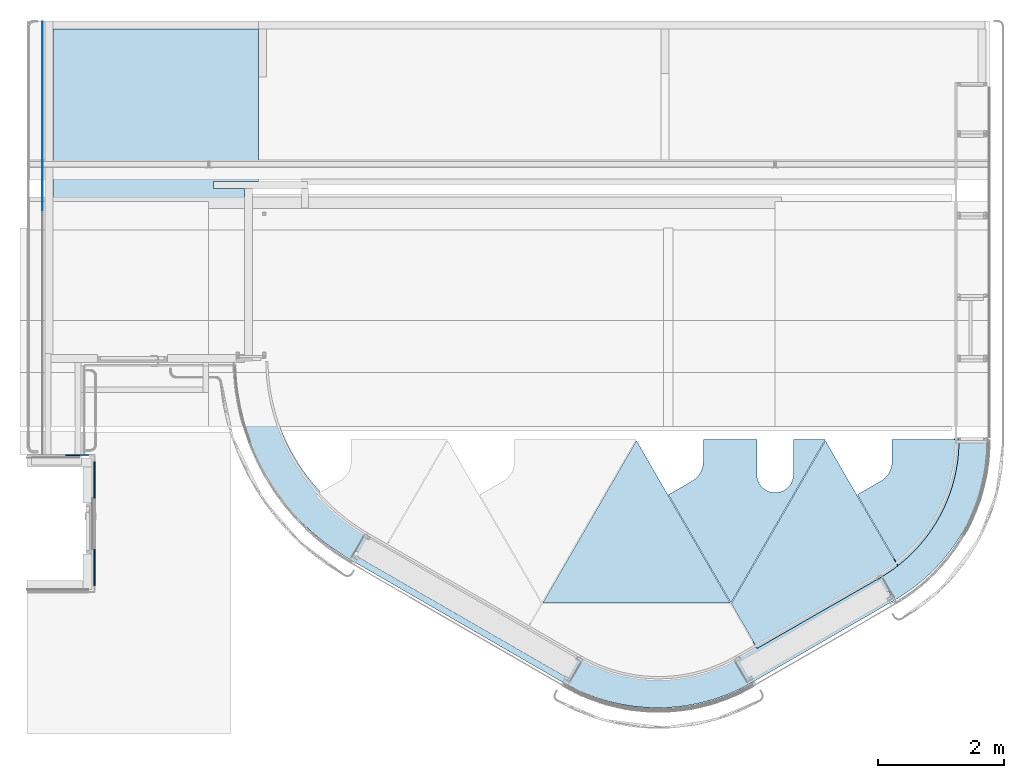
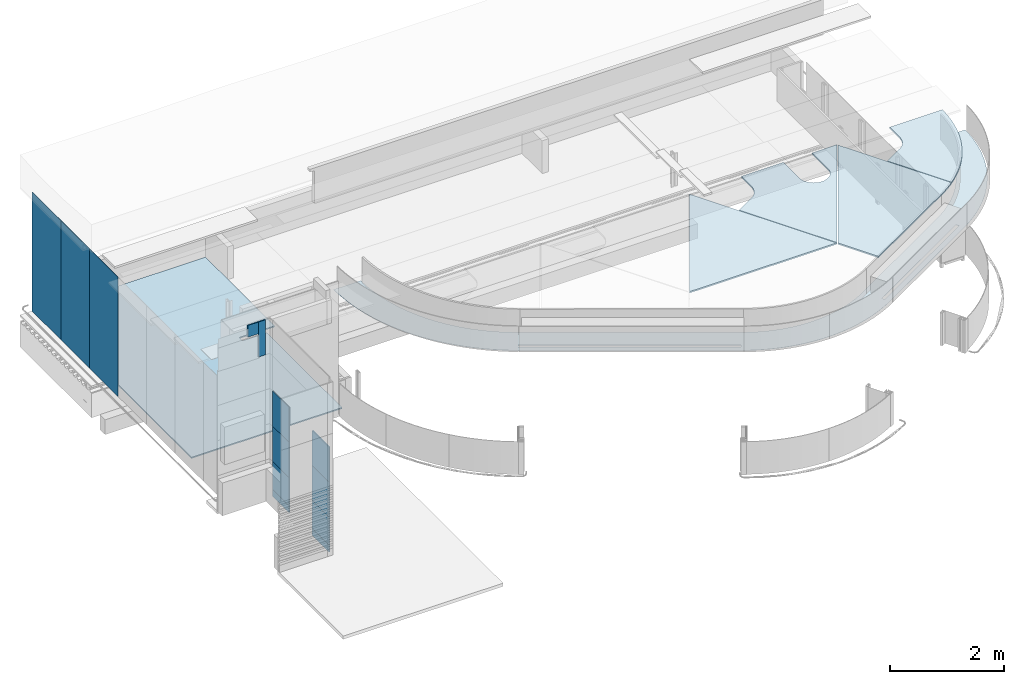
# One storey, part 9 of 18: 13 plates, 6 slabs, 2 openings, 3 elements without a shape of their own.
"""IFC2X3 building model written with IfcOpenShell, lengths in millimetres."""

from ifc_helpers import new_model, entity, si_unit, converted_unit, derived_unit, direction, frame, frame_2d, origin, origin_with_axes, place, context, subcontext, project, spatial, polyline, circle_curve, parameter, trimmed, segment, composite_curve, rectangle, outline, extrude, boolean, source, transform, mapped, material, layer, layer_set, layer_usage, type_object, element, aggregate, save


model = new_model("IFC2X3")

# Units and contexts
model_context = context("Model", 3, precision=0.01, world=frame((0.0, 4.29681676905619e-09, 0.0)), true_north=direction((4.01073788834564e-13, 1.0)))
plan_context = context("Plan", 3, precision=0.01, world=frame((0.0, 4.29681676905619e-09, 0.0)), true_north=direction((4.01073788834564e-13, 1.0)))
body_context = subcontext(model_context, "Body", "Model", "MODEL_VIEW")
ifc_project = project(units=[converted_unit("PLANEANGLEUNIT", "DEGREE", entity("IfcPositiveLengthMeasure", 0.0174532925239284), si_unit("PLANEANGLEUNIT", "RADIAN"), dimensions=[0, 0, 0, 0, 0, 0, 0]), si_unit("AREAUNIT", "SQUARE_METRE"), si_unit("LENGTHUNIT", "METRE", prefix="MILLI"), si_unit("MASSUNIT", "GRAM", prefix="KILO"), si_unit("POWERUNIT", "WATT"), si_unit("PRESSUREUNIT", "PASCAL"), si_unit("FORCEUNIT", "NEWTON", prefix="KILO"), si_unit("ELECTRICVOLTAGEUNIT", "VOLT"), si_unit("ELECTRICCURRENTUNIT", "AMPERE"), si_unit("THERMODYNAMICTEMPERATUREUNIT", "DEGREE_CELSIUS"), si_unit("TIMEUNIT", "SECOND"), si_unit("VOLUMEUNIT", "CUBIC_METRE"), derived_unit("LINEARVELOCITYUNIT", [(si_unit("LENGTHUNIT", "METRE"), 1), (si_unit("TIMEUNIT", "SECOND"), -1)]), derived_unit("VOLUMETRICFLOWRATEUNIT", [(si_unit("VOLUMEUNIT", "CUBIC_METRE"), 1), (si_unit("TIMEUNIT", "SECOND"), -1)]), derived_unit("THERMALTRANSMITTANCEUNIT", [(si_unit("POWERUNIT", "WATT"), 1), (si_unit("THERMODYNAMICTEMPERATUREUNIT", "KELVIN"), -1), (si_unit("AREAUNIT", "SQUARE_METRE"), -1)]), derived_unit("SOUNDPRESSUREUNIT", [(si_unit("PRESSUREUNIT", "PASCAL"), 1)])], contexts=[model_context, plan_context])

# Site, building, storey
site_placement = place(None, origin_with_axes())
site = spatial("IfcSite", under=ifc_project, at=site_placement, Name="ENGM", CompositionType="ELEMENT")
building_placement = place(site_placement, origin_with_axes())
building = spatial("IfcBuilding", under=site, at=building_placement, Name="TH", CompositionType="ELEMENT")
storey_placement = place(building_placement, frame((0.0, 0.0, 210200.0), z_axis=(0.0, 0.0, 1.0), x_axis=(1.0, 0.0, 0.0)))
storey = spatial("IfcBuildingStorey", under=building, at=storey_placement, Name="Nivå F - 0,7 m", CompositionType="ELEMENT", Elevation=210200.0)

# Curtain wall, plates
curtain_wall_type_1 = type_object("IfcCurtainWallType", PredefinedType="NOTDEFINED")
curtain_wall_1_placement = place(storey_placement, frame((0.0, 0.0, -210200.0), z_axis=(0.0, 0.0, 1.0), x_axis=(1.0, 0.0, 0.0)))
curtain_wall_1 = element("IfcCurtainWall", 1, at=curtain_wall_1_placement, inside=storey, type_object=curtain_wall_type_1)
ifc_material_1 = material(Name="Metal - Steel")
plate_type_1 = type_object("IfcPlateType", Name="System Panel:A245 - Metallkasett Inv.20mm - Offset 30mm", PredefinedType="CURTAIN_PANEL", material=ifc_material_1)
shared_shape_1 = source(origin(), body_context, "Body", "SweptSolid", [
    extrude(rectangle(XDim=750.000000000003, YDim=139.99999999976, at=frame_2d((-41.6666666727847, 0.0), x_axis=(1.0, 0.0))), frame((0.0, 30.0, 416.666666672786), z_axis=(0.0, 1.0, 0.0), x_axis=(0.0, 0.0, 1.0)), (0.0, 0.0, 1.0), 20.0),
])
plate_1_placement = place(curtain_wall_1_placement, frame((896014.999999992, 480415.000000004, 213200.0), z_axis=(0.0, 0.0, 1.0), x_axis=(1.0, 0.0, 0.0)))
plate_1 = element("IfcPlate", 2, at=plate_1_placement, type_object=plate_type_1, material=ifc_material_1, Name="System Panel:A245 - Metallkasett Inv.20mm - Offset 30mm", ObjectType="System Panel:A245 - Metallkasett Inv.20mm - Offset 30mm", context=body_context, shape_type="MappedRepresentation", body=[
    mapped(shared_shape_1, transform((0.0, 0.0, 0.0), scale=1.0)),
])
plate_type_2 = type_object("IfcPlateType", Name="System Panel:A245 - Metallkasett Inv.20mm - Offset 30mm", PredefinedType="CURTAIN_PANEL", material=ifc_material_1)
shared_shape_2 = source(origin(), body_context, "Body", "SweptSolid", [
    extrude(rectangle(XDim=20.0, YDim=217.999999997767, at=frame_2d((1.77635683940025e-15, 0.0), x_axis=(1.0, 0.0))), frame((0.0, 40.0, 0.0), z_axis=(0.0, 0.0, 1.0), x_axis=(0.0, 1.0, 0.0)), (0.0, 0.0, 1.0), 249.999999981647),
])
plate_2_placement = place(curtain_wall_1_placement, frame((895835.999999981, 480415.000000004, 213700.000000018), z_axis=(0.0, 0.0, 1.0), x_axis=(1.0, 0.0, 0.0)))
plate_2 = element("IfcPlate", 3, at=plate_2_placement, type_object=plate_type_2, material=ifc_material_1, Name="System Panel:A245 - Metallkasett Inv.20mm - Offset 30mm", ObjectType="System Panel:A245 - Metallkasett Inv.20mm - Offset 30mm", context=body_context, shape_type="MappedRepresentation", body=[
    mapped(shared_shape_2, transform((0.0, 0.0, 0.0), scale=1.0)),
])
aggregate(curtain_wall_1, [plate_1, plate_2])

curtain_wall_2_placement = place(storey_placement, frame((0.0, 0.0, -210200.0), z_axis=(0.0, 0.0, 1.0), x_axis=(1.0, 0.0, 0.0)))
curtain_wall_2 = element("IfcCurtainWall", 4, at=curtain_wall_2_placement, inside=storey, type_object=curtain_wall_type_1)
plate_type_3 = type_object("IfcPlateType", Name="System Panel:A245 - Metallkasett Inv.20mm - Offset 30mm", PredefinedType="CURTAIN_PANEL", material=ifc_material_1)
shared_shape_3 = source(origin(), body_context, "Body", "SweptSolid", [
    extrude(rectangle(XDim=20.0, YDim=580.000000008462, at=frame_2d((-1.77635683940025e-15, 0.0), x_axis=(1.0, 0.0))), frame((0.0, -40.0, 0.0), z_axis=(0.0, 0.0, 1.0), x_axis=(0.0, 1.0, 0.0)), (0.0, 0.0, 1.0), 150.000000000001),
])
plate_3_placement = place(curtain_wall_2_placement, frame((896145.000000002, 478672.727283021, 210200.0), z_axis=(0.0, 0.0, 1.0), x_axis=(0.0, 1.0, 0.0)))
plate_3 = element("IfcPlate", 5, at=plate_3_placement, type_object=plate_type_3, material=ifc_material_1, Name="System Panel:A245 - Metallkasett Inv.20mm - Offset 30mm", ObjectType="System Panel:A245 - Metallkasett Inv.20mm - Offset 30mm", context=body_context, shape_type="MappedRepresentation", body=[
    mapped(shared_shape_3, transform((0.0, 0.0, 0.0), scale=1.0)),
])
plate_type_4 = type_object("IfcPlateType", Name="System Panel:A245 - Metallkasett Inv.20mm - Offset 30mm", PredefinedType="CURTAIN_PANEL", material=ifc_material_1)
shared_shape_4 = source(origin(), body_context, "Body", "SweptSolid", [
    extrude(rectangle(XDim=20.0, YDim=582.27271697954, at=frame_2d((-1.77635683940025e-15, 0.0), x_axis=(1.0, 0.0))), frame((0.0, -40.0, 0.0), z_axis=(0.0, 0.0, 1.0), x_axis=(0.0, 1.0, 0.0)), (0.0, 0.0, 1.0), 150.000000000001),
])
plate_4_placement = place(curtain_wall_2_placement, frame((896145.000000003, 480063.863641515, 210200.0), z_axis=(0.0, 0.0, 1.0), x_axis=(0.0, 1.0, 0.0)))
plate_4 = element("IfcPlate", 6, at=plate_4_placement, type_object=plate_type_4, material=ifc_material_1, Name="System Panel:A245 - Metallkasett Inv.20mm - Offset 30mm", ObjectType="System Panel:A245 - Metallkasett Inv.20mm - Offset 30mm", context=body_context, shape_type="MappedRepresentation", body=[
    mapped(shared_shape_4, transform((0.0, 0.0, 0.0), scale=1.0)),
])
ifc_material_2 = material(Name="Metal - Preget plate")
plate_type_5 = type_object("IfcPlateType", Name="System Panel:UTGAAR - A245 - Metallkasett Inv. - 20 mm - Offset 30 mm", PredefinedType="CURTAIN_PANEL", material=ifc_material_2)
shared_shape_5 = source(origin(), body_context, "Body", "SweptSolid", [
    extrude(rectangle(XDim=20.0, YDim=580.000000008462, at=frame_2d((-1.77635683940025e-15, 0.0), x_axis=(1.0, 0.0))), frame((0.0, -40.0, 0.0), z_axis=(0.0, 0.0, 1.0), x_axis=(0.0, 1.0, 0.0)), (0.0, 0.0, 1.0), 600.000000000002),
])
plate_5_placement = place(curtain_wall_2_placement, frame((896145.000000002, 478672.727283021, 210350.0), z_axis=(0.0, 0.0, 1.0), x_axis=(0.0, 1.0, 0.0)))
plate_5 = element("IfcPlate", 7, at=plate_5_placement, type_object=plate_type_5, material=ifc_material_2, Name="System Panel:UTGAAR - A245 - Metallkasett Inv. - 20 mm - Offset 30 mm", ObjectType="System Panel:UTGAAR - A245 - Metallkasett Inv. - 20 mm - Offset 30 mm", context=body_context, shape_type="MappedRepresentation", body=[
    mapped(shared_shape_5, transform((0.0, 0.0, 0.0), scale=1.0)),
])
plate_type_6 = type_object("IfcPlateType", Name="System Panel:UTGAAR - A245 - Metallkasett Inv. - 20 mm - Offset 30 mm", PredefinedType="CURTAIN_PANEL", material=ifc_material_2)
shared_shape_6 = source(origin(), body_context, "Body", "SweptSolid", [
    extrude(rectangle(XDim=20.0, YDim=582.27271697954, at=frame_2d((-1.77635683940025e-15, 0.0), x_axis=(1.0, 0.0))), frame((0.0, -40.0, 0.0), z_axis=(0.0, 0.0, 1.0), x_axis=(0.0, 1.0, 0.0)), (0.0, 0.0, 1.0), 600.000000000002),
])
plate_6_placement = place(curtain_wall_2_placement, frame((896145.000000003, 480063.863641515, 210350.0), z_axis=(0.0, 0.0, 1.0), x_axis=(0.0, 1.0, 0.0)))
plate_6 = element("IfcPlate", 8, at=plate_6_placement, type_object=plate_type_6, material=ifc_material_2, Name="System Panel:UTGAAR - A245 - Metallkasett Inv. - 20 mm - Offset 30 mm", ObjectType="System Panel:UTGAAR - A245 - Metallkasett Inv. - 20 mm - Offset 30 mm", context=body_context, shape_type="MappedRepresentation", body=[
    mapped(shared_shape_6, transform((0.0, 0.0, 0.0), scale=1.0)),
])
plate_type_7 = type_object("IfcPlateType", Name="System Panel:UTGAAR - A245 - Metallkasett Inv. - 20 mm - Offset 30 mm", PredefinedType="CURTAIN_PANEL", material=ifc_material_2)
shared_shape_7 = source(origin(), body_context, "Body", "SweptSolid", [
    extrude(rectangle(XDim=20.0, YDim=580.000000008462, at=frame_2d((-1.77635683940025e-15, 0.0), x_axis=(1.0, 0.0))), frame((0.0, -40.0, 0.0), z_axis=(0.0, 0.0, 1.0), x_axis=(0.0, 1.0, 0.0)), (0.0, 0.0, 1.0), 750.000000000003),
])
plate_7_placement = place(curtain_wall_2_placement, frame((896145.000000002, 478672.727283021, 210950.0), z_axis=(0.0, 0.0, 1.0), x_axis=(0.0, 1.0, 0.0)))
plate_7 = element("IfcPlate", 9, at=plate_7_placement, type_object=plate_type_7, material=ifc_material_2, Name="System Panel:UTGAAR - A245 - Metallkasett Inv. - 20 mm - Offset 30 mm", ObjectType="System Panel:UTGAAR - A245 - Metallkasett Inv. - 20 mm - Offset 30 mm", context=body_context, shape_type="MappedRepresentation", body=[
    mapped(shared_shape_7, transform((0.0, 0.0, 0.0), scale=1.0)),
])
plate_8_placement = place(curtain_wall_2_placement, frame((896145.000000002, 478672.727283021, 211700.0), z_axis=(0.0, 0.0, 1.0), x_axis=(0.0, 1.0, 0.0)))
plate_8 = element("IfcPlate", 10, at=plate_8_placement, type_object=plate_type_7, material=ifc_material_2, Name="System Panel:UTGAAR - A245 - Metallkasett Inv. - 20 mm - Offset 30 mm", ObjectType="System Panel:UTGAAR - A245 - Metallkasett Inv. - 20 mm - Offset 30 mm", context=body_context, shape_type="MappedRepresentation", body=[
    mapped(shared_shape_7, transform((0.0, 0.0, 0.0), scale=1.0)),
])
plate_type_8 = type_object("IfcPlateType", Name="System Panel:UTGAAR - A245 - Metallkasett Inv. - 20 mm - Offset 30 mm", PredefinedType="CURTAIN_PANEL", material=ifc_material_2)
shared_shape_8 = source(origin(), body_context, "Body", "SweptSolid", [
    extrude(rectangle(XDim=20.0, YDim=582.27271697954, at=frame_2d((-1.77635683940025e-15, 0.0), x_axis=(1.0, 0.0))), frame((0.0, -40.0, 0.0), z_axis=(0.0, 0.0, 1.0), x_axis=(0.0, 1.0, 0.0)), (0.0, 0.0, 1.0), 750.000000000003),
])
plate_9_placement = place(curtain_wall_2_placement, frame((896145.000000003, 480063.863641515, 210950.0), z_axis=(0.0, 0.0, 1.0), x_axis=(0.0, 1.0, 0.0)))
plate_9 = element("IfcPlate", 11, at=plate_9_placement, type_object=plate_type_8, material=ifc_material_2, Name="System Panel:UTGAAR - A245 - Metallkasett Inv. - 20 mm - Offset 30 mm", ObjectType="System Panel:UTGAAR - A245 - Metallkasett Inv. - 20 mm - Offset 30 mm", context=body_context, shape_type="MappedRepresentation", body=[
    mapped(shared_shape_8, transform((0.0, 0.0, 0.0), scale=1.0)),
])
plate_10_placement = place(curtain_wall_2_placement, frame((896145.000000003, 480063.863641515, 211700.0), z_axis=(0.0, 0.0, 1.0), x_axis=(0.0, 1.0, 0.0)))
plate_10 = element("IfcPlate", 12, at=plate_10_placement, type_object=plate_type_8, material=ifc_material_2, Name="System Panel:UTGAAR - A245 - Metallkasett Inv. - 20 mm - Offset 30 mm", ObjectType="System Panel:UTGAAR - A245 - Metallkasett Inv. - 20 mm - Offset 30 mm", context=body_context, shape_type="MappedRepresentation", body=[
    mapped(shared_shape_8, transform((0.0, 0.0, 0.0), scale=1.0)),
])
aggregate(curtain_wall_2, [plate_3, plate_4, plate_5, plate_6, plate_7, plate_9, plate_8, plate_10])

curtain_wall_type_2 = type_object("IfcCurtainWallType", PredefinedType="NOTDEFINED")
curtain_wall_3_placement = place(storey_placement, frame((0.0, 0.0, -210200.0), z_axis=(0.0, 0.0, 1.0), x_axis=(1.0, 0.0, 0.0)))
curtain_wall_3 = element("IfcCurtainWall", 13, at=curtain_wall_3_placement, inside=storey, type_object=curtain_wall_type_2)
ifc_material_3 = material(Name="Glass(Avinor)")
plate_type_9 = type_object("IfcPlateType", Name="System Panel:A245 - T1 - Glass - 10 mm", PredefinedType="CURTAIN_PANEL", material=ifc_material_3)
shared_shape_9 = source(origin(), body_context, "Body", "SweptSolid", [
    extrude(rectangle(XDim=10.0, YDim=999.99999999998, at=frame_2d((-4.44089209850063e-16, 0.0), x_axis=(1.0, 0.0))), frame((0.0, -5.0, 0.0), z_axis=(0.0, 0.0, 1.0), x_axis=(0.0, 1.0, 0.0)), (0.0, 0.0, 1.0), 2550.00000000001),
])
plate_11_placement = place(curtain_wall_3_placement, frame((895353.250000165, 484847.607872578, 210200.0), z_axis=(0.0, 0.0, 1.0), x_axis=(0.0, 1.0, 0.0)))
plate_11 = element("IfcPlate", 14, at=plate_11_placement, type_object=plate_type_9, material=ifc_material_3, Name="System Panel:A245 - T1 - Glass - 10 mm", ObjectType="System Panel:A245 - T1 - Glass - 10 mm", context=body_context, shape_type="MappedRepresentation", body=[
    mapped(shared_shape_9, transform((0.0, 0.0, 0.0), scale=1.0)),
])
plate_12_placement = place(curtain_wall_3_placement, frame((895353.250000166, 485847.607872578, 210200.0), z_axis=(0.0, 0.0, 1.0), x_axis=(0.0, 1.0, 0.0)))
plate_12 = element("IfcPlate", 15, at=plate_12_placement, type_object=plate_type_9, material=ifc_material_3, Name="System Panel:A245 - T1 - Glass - 10 mm", ObjectType="System Panel:A245 - T1 - Glass - 10 mm", context=body_context, shape_type="MappedRepresentation", body=[
    mapped(shared_shape_9, transform((0.0, 0.0, 0.0), scale=1.0)),
])
plate_type_10 = type_object("IfcPlateType", Name="System Panel:A245 - T1 - Glass - 10 mm", PredefinedType="CURTAIN_PANEL", material=ifc_material_3)
plate_13_placement = place(curtain_wall_3_placement, frame((895353.250000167, 486847.654612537, 210200.0), z_axis=(0.0, 0.0, 1.0), x_axis=(0.0, 1.0, 0.0)))
plate_13 = element("IfcPlate", 16, at=plate_13_placement, type_object=plate_type_10, material=ifc_material_3, Name="System Panel:A245 - T1 - Glass - 10 mm", ObjectType="System Panel:A245 - T1 - Glass - 10 mm", context=body_context, shape_type="MappedRepresentation", body=[
    mapped(shared_shape_9, transform((0.0, 0.0, 0.0), scale=1.0)),
])
aggregate(curtain_wall_3, [plate_11, plate_12, plate_13])

# Slab, openings
ifc_material_4 = material(Name="_NSW Stål")
ifc_layer_1 = layer(ifc_material_4, 5.0)
ifc_layer_set_1 = layer_set([ifc_layer_1], Name="Floor:A245 - Metalplate 5mm")
ifc_layer_usage_1 = layer_usage(ifc_layer_set_1, "AXIS3", "POSITIVE", 0.0)
slab_type_1 = type_object("IfcSlabType", Name="Floor:A245 - Metalplate 5mm", PredefinedType="FLOOR", material=ifc_layer_set_1)
slab_1_placement = place(storey_placement, origin_with_axes())
slab_1 = element("IfcSlab", 17, at=slab_1_placement, inside=storey, type_object=slab_type_1, material=ifc_layer_usage_1, Name="Floor:A245 - Metalplate 5mm", ObjectType="Floor:A245 - Metalplate 5mm", PredefinedType="FLOOR", context=body_context, shape_type="SweptSolid", body=[
    boolean("DIFFERENCE", boolean("DIFFERENCE", extrude(outline(composite_curve([segment(polyline([(-5879.19889701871, -2742.17667775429), (-5326.80394906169, -2742.17667775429)]), True, "CONTINUOUS"), segment(polyline([(-5326.80394906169, -2742.17667775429), (-5326.80394906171, -2714.69933815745)]), True, "CONTINUOUS"), segment(trimmed(circle_curve(frame_2d((-2147.76592816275, -2753.50466151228), x_axis=(-0.999925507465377, 0.0122057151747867)), 3179.27485308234), [parameter(301.06485584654)], [parameter(0.0)], True, "PARAMETER"), False, "CONTINUOUS"), segment(polyline([(-3754.93501289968, -10.3684774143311), (-304.556989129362, 1981.73413943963)]), True, "CONTINUOUS"), segment(trimmed(circle_curve(frame_2d((880.384500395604, -155.769667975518), x_axis=(-0.484842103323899, 0.874601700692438)), 2443.97398928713), [parameter(302.201254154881)], [parameter(0.0)], True, "PARAMETER"), False, "CONTINUOUS"), segment(polyline([(2057.65152594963, 1985.97056157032), (4401.66476356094, 632.636268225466)]), True, "CONTINUOUS"), segment(trimmed(circle_curve(frame_2d((3167.58044362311, -1453.1485410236), x_axis=(0.509210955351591, 0.860641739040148)), 2423.52272100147), [parameter(300.870678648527)], [parameter(0.0)], True, "PARAMETER"), False, "CONTINUOUS"), segment(polyline([(5591.07832838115, -1442.17667774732), (6142.55018934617, -1442.17667774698)]), True, "CONTINUOUS"), segment(trimmed(circle_curve(frame_2d((3135.23909483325, -1470.90059366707), x_axis=(0.999954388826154, 0.00955092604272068)), 3007.4482676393), [parameter(0.0)], [parameter(59.5083052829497)], True, "PARAMETER"), True, "CONTINUOUS"), segment(polyline([(4636.43774782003, 1135.08246207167), (2384.24554512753, 2435.38623656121)]), True, "CONTINUOUS"), segment(trimmed(circle_curve(frame_2d((880.216069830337, -166.692905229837), x_axis=(0.500428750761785, 0.865777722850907)), 3005.48174552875), [parameter(0.0)], [parameter(60.0283753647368)], True, "PARAMETER"), True, "CONTINUOUS"), segment(polyline([(-622.525047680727, 2436.13049570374), (-3998.80425533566, 486.834363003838)]), True, "CONTINUOUS"), segment(trimmed(circle_curve(frame_2d((-2118.30394906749, -2770.28700379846), x_axis=(-0.500000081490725, 0.86602535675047)), 3760.99999999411), [parameter(0.0)], [parameter(59.5717526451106)], True, "PARAMETER"), True, "CONTINUOUS")], self_intersect=False)), frame((904253.147729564, 479280.760216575, 2635.0), z_axis=(0.0, 0.0, -1.0), x_axis=(1.0, 0.0, 0.0)), (0.0, 0.0, 1.0), 5.00000000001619), extrude(rectangle(XDim=59.9999999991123, YDim=3896.82250743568, at=frame_2d((2.99813507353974e-11, 1.72803993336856e-11), x_axis=(1.0, 0.0))), frame((901999.873498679, 477937.229151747, 2630.0), z_axis=(0.0, 0.0, 1.0), x_axis=(0.499999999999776, 0.866025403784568, 0.0)), (0.0, 0.0, 1.0), 5.00000000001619)), extrude(rectangle(XDim=59.9999999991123, YDim=2596.82250743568, at=frame_2d((6.46664943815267e-11, 4.27462509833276e-11), x_axis=(1.0, 0.0))), frame((907694.250026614, 477612.229151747, 2630.0), z_axis=(0.0, 0.0, 1.0), x_axis=(-0.499999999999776, 0.866025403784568, 0.0)), (0.0, 0.0, 1.0), 5.00000000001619)),
])
opening_1_placement = place(slab_1_placement, origin_with_axes())
element("IfcOpeningElement", 18, at=opening_1_placement, cuts=slab_1, Name="Floor:A245 - Metalplate 5mm", ObjectType="Opening", context=body_context, shape_type="SweptSolid", body=[
    extrude(rectangle(XDim=59.9999999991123, YDim=2596.82250743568, at=frame_2d((6.46664943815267e-11, -4.28599378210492e-11), x_axis=(1.0, 0.0))), frame((907694.250026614, 477612.229151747, 2635.0), z_axis=(0.0, 0.0, -1.0), x_axis=(-0.499999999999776, 0.866025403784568, 0.0)), (0.0, 0.0, 1.0), 5.0),
])
opening_2_placement = place(slab_1_placement, origin_with_axes())
element("IfcOpeningElement", 19, at=opening_2_placement, cuts=slab_1, Name="Floor:A245 - Metalplate 5mm", ObjectType="Opening", context=body_context, shape_type="SweptSolid", body=[
    extrude(rectangle(XDim=3896.82250743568, YDim=59.9999999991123, at=frame_2d((-1.72803993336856e-11, 2.99813507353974e-11), x_axis=(1.0, 0.0))), frame((901999.873498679, 477937.229151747, 2635.0), z_axis=(0.0, 0.0, 1.0), x_axis=(-0.866025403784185, 0.50000000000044, 0.0)), (0.0, 0.0, -1.0), 5.0),
])

# Slabs
ifc_layer_2 = layer(ifc_material_3, 8.0)
ifc_material_5 = material(Name="_NSW Luftspalte")
ifc_layer_3 = layer(ifc_material_5, 2.0)
ifc_layer_4 = layer(ifc_material_3, 10.0)
ifc_layer_5 = layer(ifc_material_5, 2.0)
ifc_layer_6 = layer(ifc_material_3, 10.0)
ifc_layer_set_2 = layer_set([ifc_layer_2, ifc_layer_3, ifc_layer_4, ifc_layer_5, ifc_layer_6], Name="Floor:A254 - GU-G0X Glass 32 LYS")
ifc_layer_usage_2 = layer_usage(ifc_layer_set_2, "AXIS3", "POSITIVE", 0.0)
slab_type_2 = type_object("IfcSlabType", Name="Floor:A254 - GU-G0X Glass 32 LYS", PredefinedType="FLOOR", material=ifc_layer_set_2)
slab_2_placement = place(storey_placement, frame((899692.99544573, 476874.182723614, 3205.0), z_axis=(0.0, 0.0, 1.0), x_axis=(1.0, 0.0, 0.0)))
element("IfcSlab", 20, at=slab_2_placement, inside=storey, type_object=slab_type_2, material=ifc_layer_usage_2, Name="Floor:A254 - GU-G0X Glass 32 LYS", ObjectType="Floor:A254 - GU-G0X Glass 32 LYS", PredefinedType="FLOOR", context=body_context, shape_type="SweptSolid", body=[
    extrude(outline(composite_curve([segment(polyline([(-4051.01016192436, 1916.37233031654), (-5115.95077416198, 1916.37233031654)]), True, "CONTINUOUS"), segment(trimmed(circle_curve(frame_2d((-2590.99542492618, 1901.35619348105), x_axis=(-1.0, 0.0)), 2525.0), [parameter(359.659260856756)], [parameter(51.8896624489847)], True, "PARAMETER"), True, "CONTINUOUS"), segment(polyline([(-4149.36948935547, -85.3736007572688), (-3499.25460034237, 1040.65841777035)]), True, "CONTINUOUS"), segment(polyline([(-3499.25460034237, 1040.65841777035), (-3847.9236145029, 1241.96256695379)]), True, "CONTINUOUS"), segment(trimmed(circle_curve(frame_2d((-3691.0101619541, 1565.96591324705), x_axis=(-1.0, 0.0)), 359.999999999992), [parameter(0.0)], [parameter(64.1592890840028)], True, "PARAMETER"), False, "CONTINUOUS"), segment(polyline([(-4051.01016192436, 1565.96591324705), (-4051.01016192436, 1916.37233031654)]), True, "CONTINUOUS")], self_intersect=False)), frame((5115.99439231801, 1914.8513631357, 32.0), z_axis=(0.0, 0.0, -1.0), x_axis=(-1.0, 0.0, 0.0)), (0.0, 0.0, 1.0), 31.9999999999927),
])
slab_3_placement = place(storey_placement, frame((899692.99544573, 476874.182723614, 3205.0), z_axis=(0.0, 0.0, 1.0), x_axis=(1.0, 0.0, 0.0)))
element("IfcSlab", 21, at=slab_3_placement, inside=storey, type_object=slab_type_2, material=ifc_layer_usage_2, Name="Floor:A254 - GU-G0X Glass 32 LYS:2", ObjectType="Floor:A254 - GU-G0X Glass 32 LYS", PredefinedType="FLOOR", context=body_context, shape_type="SweptSolid", body=[
    extrude(outline(composite_curve([segment(polyline([(-1496.56592595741, -690.519870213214), (-2991.87779956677, 1899.43626804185)]), True, "CONTINUOUS"), segment(polyline([(-2991.87779956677, 1899.43626804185), (-4141.412110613, -91.5896413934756)]), True, "CONTINUOUS"), segment(trimmed(circle_curve(frame_2d((-2590.99542492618, 1901.35619348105), x_axis=(-1.0, 0.0)), 2525.0), [parameter(52.1187884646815)], [parameter(59.8991639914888)], True, "PARAMETER"), True, "CONTINUOUS"), segment(polyline([(-3857.3419104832, -283.132666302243), (-1907.68849358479, -1402.59577454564)]), True, "CONTINUOUS"), segment(polyline([(-1907.68849358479, -1402.59577454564), (-1496.56592595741, -690.519870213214)]), True, "CONTINUOUS")], self_intersect=False)), frame((5115.99439231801, 1914.8513631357, 32.0), z_axis=(0.0, 0.0, -1.0), x_axis=(-1.0, 0.0, 0.0)), (0.0, 0.0, 1.0), 31.9999999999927),
])
slab_4_placement = place(storey_placement, frame((899692.99544573, 476874.182723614, 3205.0), z_axis=(0.0, 0.0, 1.0), x_axis=(1.0, 0.0, 0.0)))
element("IfcSlab", 22, at=slab_4_placement, inside=storey, type_object=slab_type_2, material=ifc_layer_usage_2, Name="Floor:A254 - GU-G0X Glass 32 LYS:4", ObjectType="Floor:A254 - GU-G0X Glass 32 LYS", PredefinedType="FLOOR", context=body_context, shape_type="SweptSolid", body=[
    extrude(outline(composite_curve([segment(polyline([(-2483.4243754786, 1916.37233031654), (-2990.10883429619, 1916.37233031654)]), True, "CONTINUOUS"), segment(polyline([(-2990.10883429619, 1916.37233031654), (-1490.79238568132, -680.519935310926)]), True, "CONTINUOUS"), segment(polyline([(-1490.79238568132, -680.519935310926), (-497.606138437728, 1039.70670964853)]), True, "CONTINUOUS"), segment(polyline([(-497.606138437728, 1039.70670964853), (-847.923272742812, 1241.9624014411)]), True, "CONTINUOUS"), segment(trimmed(circle_curve(frame_2d((-691.010161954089, 1565.96591324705), x_axis=(-1.0, 0.0)), 359.999999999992), [parameter(0.0)], [parameter(64.1593495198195)], True, "PARAMETER"), False, "CONTINUOUS"), segment(polyline([(-1051.01016192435, 1565.96591324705), (-1051.01016192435, 1916.37233031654)]), True, "CONTINUOUS"), segment(polyline([(-1051.01016192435, 1916.37233031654), (-1903.42390651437, 1916.37233031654)]), True, "CONTINUOUS"), segment(polyline([(-1903.42390651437, 1916.37233031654), (-1903.42390651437, 1362.3757518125)]), True, "CONTINUOUS"), segment(trimmed(circle_curve(frame_2d((-2193.42414099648, 1362.3757518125), x_axis=(-1.0, 0.0)), 290.000234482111), [parameter(0.0)], [parameter(180.0)], True, "PARAMETER"), False, "CONTINUOUS"), segment(polyline([(-2483.4243754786, 1362.3757518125), (-2483.4243754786, 1916.37233031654)]), True, "CONTINUOUS")], self_intersect=False)), frame((5115.99439231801, 1914.8513631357, 32.0), z_axis=(0.0, 0.0, -1.0), x_axis=(-1.0, 0.0, 0.0)), (0.0, 0.0, 1.0), 31.9999999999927),
])
slab_5_placement = place(storey_placement, frame((899692.99544573, 476874.182723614, 3205.0), z_axis=(0.0, 0.0, 1.0), x_axis=(1.0, 0.0, 0.0)))
element("IfcSlab", 23, at=slab_5_placement, inside=storey, type_object=slab_type_2, material=ifc_layer_usage_2, Name="Floor:A254 - GU-G0X Glass 32 LYS:7", ObjectType="Floor:A254 - GU-G0X Glass 32 LYS", PredefinedType="FLOOR", context=body_context, shape_type="SweptSolid", body=[
    extrude(outline(polyline([(1502.54018011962, -681.213456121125), (11.4472138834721, 1901.40169561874), (-1479.64575235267, -681.213456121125), (1502.54018011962, -681.213456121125)])), frame((5115.99439231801, 1914.8513631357, 32.0), z_axis=(0.0, 0.0, -1.0), x_axis=(-1.0, 0.0, 0.0)), (0.0, 0.0, 1.0), 31.9999999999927),
])
ifc_material_6 = material(Name="T2 - Rubber")
ifc_layer_7 = layer(ifc_material_6, 3.0)
ifc_material_7 = material(Name="_NSW Gulv (Generell)")
ifc_layer_8 = layer(ifc_material_7, 22.0)
ifc_layer_set_3 = layer_set([ifc_layer_7, ifc_layer_8], Name="Floor:A254 - GU-B02 - Vinyl 3mm")
ifc_layer_usage_3 = layer_usage(ifc_layer_set_3, "AXIS3", "POSITIVE", 0.0)
slab_type_3 = type_object("IfcSlabType", Name="Floor:A254 - GU-B02 - Vinyl 3mm", PredefinedType="FLOOR", material=ifc_layer_set_3)
slab_6_placement = place(storey_placement, origin_with_axes())
element("IfcSlab", 24, at=slab_6_placement, inside=storey, type_object=slab_type_3, material=ifc_layer_usage_3, Name="Floor:A254 - GU-B02 - Vinyl 3mm", ObjectType="Floor:A254 - GU-B02 - Vinyl 3mm", PredefinedType="FLOOR", context=body_context, shape_type="SweptSolid", body=[
    extrude(outline(polyline([(-2640.66734500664, -2217.47288381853), (2533.28130250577, -2217.47288381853), (2533.28130250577, 1052.77711599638), (109.943021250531, 1052.77711599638), (109.943021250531, 336.27711582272), (-2.55697874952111, 336.27711582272), (-2.55697874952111, 828.418651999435), (-2640.66734500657, 828.418651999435), (-2640.66734500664, -2217.47288381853)])), frame((897738.722883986, 484699.368697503, 25.0), z_axis=(0.0, 0.0, -1.0), x_axis=(0.0, 1.0, 0.0)), (0.0, 0.0, 1.0), 25.0000000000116),
])

save(model, "model.ifc")
